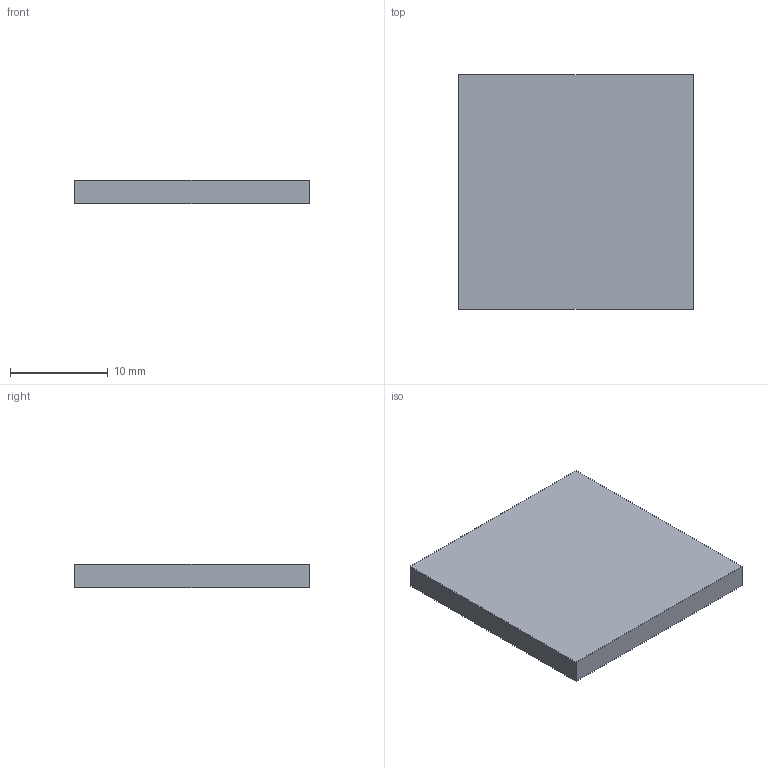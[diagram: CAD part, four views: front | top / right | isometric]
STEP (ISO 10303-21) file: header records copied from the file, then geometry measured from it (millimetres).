
FILE_DESCRIPTION(/* description */ (''),/* implementation_level */ '2;1');
FILE_NAME(/* name */ 'REF_MODEM_24x24x2p4_NOMINAL.step',/* time_stamp */ '2026-09-16T19:15:08-07:00',/* author */ (''),/* organization */ (''),/* preprocessor_version */ 'ST-DEVELOPER v20.1',/* originating_system */ 'Autodesk Translation Framework v15.8.0.0',/* authorisation */ '');
FILE_SCHEMA (('AUTOMOTIVE_DESIGN { 1 0 10303 214 3 1 1 }'));
Length unit declared in the file: centimetre
Products named in the file (1): 2026-09-16-19-15-08-495
Bounding box: 24 x 24 x 2.4 mm (x, y, z)
Volume: 1382.4 mm3; surface area: 1382.4 mm2
Topology: 1 solids, 1 shells, 6 faces, 12 edges, 8 vertices
Faces by surface type: plane 6
Entity records: 196 total; most frequent: CARTESIAN_POINT 27, DIRECTION 26, ORIENTED_EDGE 24, LINE 12, VECTOR 12, EDGE_CURVE 12, VERTEX_POINT 8, AXIS2_PLACEMENT_3D 7
